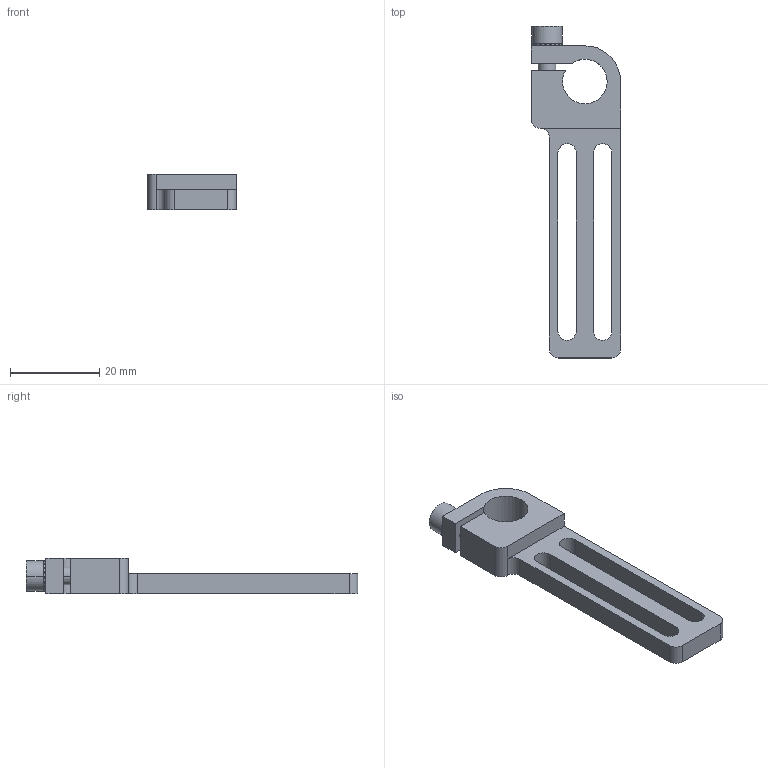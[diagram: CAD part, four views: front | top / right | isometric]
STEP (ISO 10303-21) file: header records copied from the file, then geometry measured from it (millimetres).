
FILE_DESCRIPTION (( 'STEP AP214' ), '1' );
FILE_NAME ('SMBE1-1040.STEP', '2024-08-13T06:00:53', ( '' ), ( '' ), 'SwSTEP 2.0', 'SolidWorks 2022', '' );
FILE_SCHEMA (( 'AUTOMOTIVE_DESIGN' ));
Length unit declared in the file: millimetre
Products named in the file (5): SMBE1-1040; PTC-M4L12.STEP; SMBE1-1040.STEP; PTS-M4.STEP
Assembly tree (4 placements, depth 3):
  SMBE1-1040
    SMBE1-1040.STEP
      SMBE1-1040.STEP
      PTC-M4L12.STEP
      PTS-M4.STEP
Bounding box: 20 x 74.45 x 8 mm (x, y, z)
Volume: 4348.9 mm3; surface area: 4247.2 mm2
Topology: 3 solids, 3 shells, 217 faces, 623 edges, 413 vertices
Faces by surface type: plane 187, cylinder 24, cone 6
Entity records: 7351 total; most frequent: DIRECTION 1287, CARTESIAN_POINT 1261, ORIENTED_EDGE 1246, EDGE_CURVE 623, AXIS2_PLACEMENT_3D 439, VERTEX_POINT 413, LINE 409, VECTOR 409
